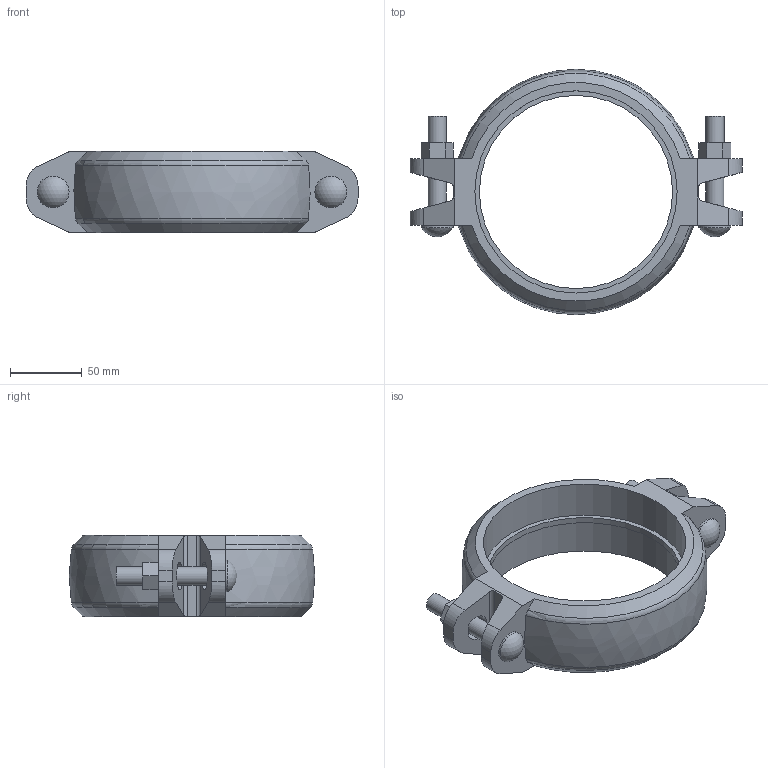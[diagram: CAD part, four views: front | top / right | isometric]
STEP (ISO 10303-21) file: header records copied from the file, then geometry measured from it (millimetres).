
FILE_DESCRIPTION(/* description */ ('VICTAULIC STYLE 009N FIRELOCK EZ RIGID COUPLING','CAx-IF Rec.Pracs.---Representation and Presentation of Product Manufacturing Information (PMI)---4.0---2014-10-13'),/* implementation_level */ '2;1');
FILE_NAME(/* name */ 'C:\Users\Vjadhav\AppData\Roaming\Autodesk\ApplicationPlugins\Victaulic.Temp\A361\Victaulic_FP-FireLock_Coupling Rigid_IR_Style 009N (OGS)_5 (125).stp',/* time_stamp */ '2022-03-23T18:55:04+05:00',/* author */ ('Vjadhav'),/* organization */ ('Victaulic'),/* preprocessor_version */ 'ST-DEVELOPER v17.2',/* originating_system */ 'Autodesk Inventor 2019',/* authorisation */ '');
FILE_SCHEMA (('AP242_MANAGED_MODEL_BASED_3D_ENGINEERING_MIM_LF { 1 0 10303 442 1 1 4 }'));
Length unit declared in the file: inch
Products named in the file (2): 009N-05.0; 009N-05.0_1
Assembly tree (1 placements, depth 2):
  009N-05.0
    009N-05.0_1
Bounding box: 231.9 x 171.45 x 57.15 mm (x, y, z)
Volume: 474975.5 mm3; surface area: 89578.9 mm2
Topology: 1 solids, 1 shells, 91 faces, 251 edges, 170 vertices
Faces by surface type: plane 50, cylinder 29, cone 4, torus 4, sphere 2, bspline 2
Full cylindrical faces by diameter (mm): 12.7 x4, 22.225 x2, 134.95 x1, 141.3 x2
Entity records: 3243 total; most frequent: CARTESIAN_POINT 683, ORIENTED_EDGE 502, DIRECTION 501, EDGE_CURVE 251, AXIS2_PLACEMENT_3D 178, VERTEX_POINT 170, LINE 145, VECTOR 145
